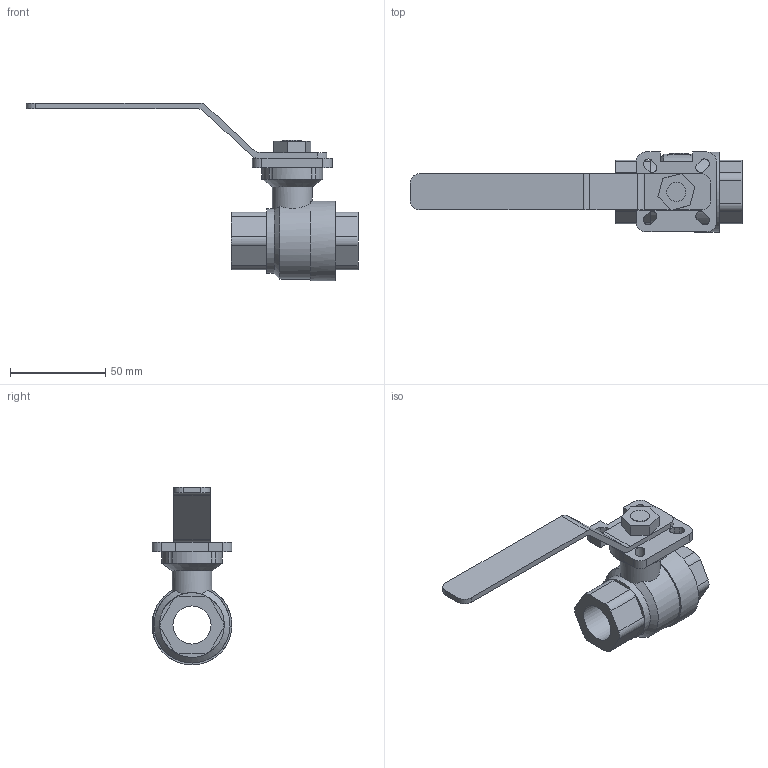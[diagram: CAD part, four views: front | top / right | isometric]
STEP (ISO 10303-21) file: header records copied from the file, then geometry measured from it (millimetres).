
FILE_DESCRIPTION(('STEP AP203'), '1');
FILE_NAME('3D_7015-020-63', '', ('UNSPECIFIED'), ('UNSPECIFIED'), 'C3D Converter', 'C3D Toolkit', '');
FILE_SCHEMA(('CONFIG_CONTROL_DESIGN'));
Length unit declared in the file: millimetre
Bounding box: 174.5 x 42 x 93.5 mm (x, y, z)
Volume: 77611.8 mm3; surface area: 27128.6 mm2
Topology: 11 solids, 11 shells, 940 faces, 2754 edges, 1835 vertices
Faces by surface type: plane 896, cylinder 42, cone 2
Full cylindrical faces by diameter (mm): 10 x1, 20 x1, 21 x1, 34 x1, 42 x1
Entity records: 38884 total; most frequent: CARTESIAN_POINT 6194, ORIENTED_EDGE 5496, DIRECTION 4713, EDGE_CURVE 2748, LINE 2641, VECTOR 2641, VERTEX_POINT 1835, AXIS2_PLACEMENT_3D 1036
